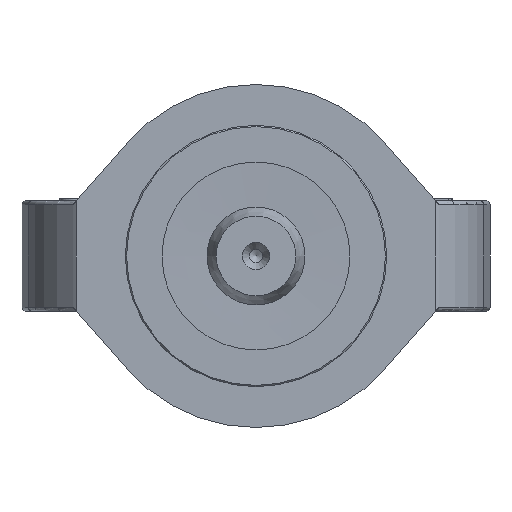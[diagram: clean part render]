
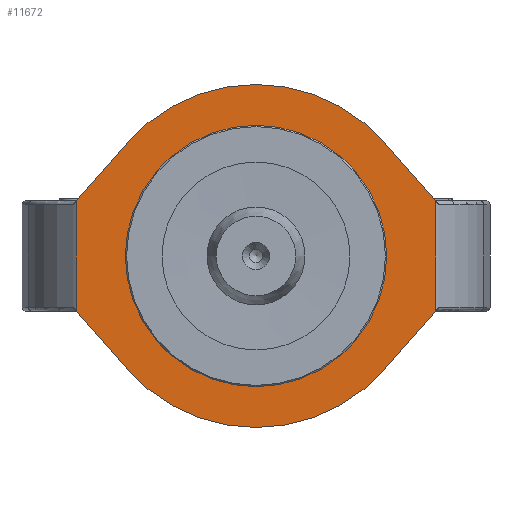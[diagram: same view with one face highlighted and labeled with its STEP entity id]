
A CAD part, front view. The second image highlights one B-rep face of the part: STEP entity #11672.
In plain terms, the highlighted planar face has unit normal (0, -1, 0).
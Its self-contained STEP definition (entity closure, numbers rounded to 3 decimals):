
#323=CIRCLE('',#12295,32.);
#378=CIRCLE('',#12406,42.);
#379=CIRCLE('',#12410,42.);
#576=FACE_BOUND('',#2232,.T.);
#1526=FACE_OUTER_BOUND('',#2231,.T.);
#2231=EDGE_LOOP('',(#9357,#9358,#9359,#9360,#9361,#9362,#9363,#9364));
#2232=EDGE_LOOP('',(#9365));
#3219=LINE('',#18444,#4196);
#3223=LINE('',#18461,#4200);
#3239=LINE('',#18871,#4216);
#3241=LINE('',#18877,#4218);
#3243=LINE('',#18881,#4220);
#3245=LINE('',#18887,#4222);
#4196=VECTOR('',#14039,10.);
#4200=VECTOR('',#14059,10.);
#4216=VECTOR('',#14195,10.);
#4218=VECTOR('',#14203,10.);
#4220=VECTOR('',#14207,10.);
#4222=VECTOR('',#14215,10.);
#5118=VERTEX_POINT('',#18325);
#5146=VERTEX_POINT('',#18436);
#5149=VERTEX_POINT('',#18442);
#5153=VERTEX_POINT('',#18458);
#5154=VERTEX_POINT('',#18460);
#5180=VERTEX_POINT('',#18869);
#5181=VERTEX_POINT('',#18873);
#5182=VERTEX_POINT('',#18879);
#5183=VERTEX_POINT('',#18883);
#6546=EDGE_CURVE('',#5118,#5118,#323,.T.);
#6590=EDGE_CURVE('',#5149,#5146,#3219,.T.);
#6598=EDGE_CURVE('',#5153,#5154,#3223,.T.);
#6658=EDGE_CURVE('',#5153,#5180,#3239,.T.);
#6660=EDGE_CURVE('',#5180,#5181,#378,.T.);
#6661=EDGE_CURVE('',#5181,#5146,#3241,.T.);
#6663=EDGE_CURVE('',#5149,#5182,#3243,.T.);
#6665=EDGE_CURVE('',#5182,#5183,#379,.T.);
#6666=EDGE_CURVE('',#5183,#5154,#3245,.T.);
#9357=ORIENTED_EDGE('',*,*,#6598,.F.);
#9358=ORIENTED_EDGE('',*,*,#6658,.T.);
#9359=ORIENTED_EDGE('',*,*,#6660,.T.);
#9360=ORIENTED_EDGE('',*,*,#6661,.T.);
#9361=ORIENTED_EDGE('',*,*,#6590,.F.);
#9362=ORIENTED_EDGE('',*,*,#6663,.T.);
#9363=ORIENTED_EDGE('',*,*,#6665,.T.);
#9364=ORIENTED_EDGE('',*,*,#6666,.T.);
#9365=ORIENTED_EDGE('',*,*,#6546,.T.);
#11086=PLANE('',#12412);
#11672=ADVANCED_FACE('',(#1526,#576),#11086,.T.);
#12295=AXIS2_PLACEMENT_3D('',#18326,#13938,#13939);
#12406=AXIS2_PLACEMENT_3D('',#18875,#14199,#14200);
#12410=AXIS2_PLACEMENT_3D('',#18885,#14211,#14212);
#12412=AXIS2_PLACEMENT_3D('',#18888,#14216,#14217);
#13938=DIRECTION('center_axis',(0.,1.,0.));
#13939=DIRECTION('ref_axis',(-1.,0.,0.));
#14039=DIRECTION('',(0.,0.,1.));
#14059=DIRECTION('',(0.,0.,-1.));
#14195=DIRECTION('',(-0.659,0.,0.752));
#14199=DIRECTION('center_axis',(0.,-1.,0.));
#14200=DIRECTION('ref_axis',(0.752,0.,0.659));
#14203=DIRECTION('',(-0.659,0.,-0.752));
#14207=DIRECTION('',(0.659,0.,-0.752));
#14211=DIRECTION('center_axis',(0.,-1.,0.));
#14212=DIRECTION('ref_axis',(-0.752,0.,-0.659));
#14215=DIRECTION('',(0.659,0.,0.752));
#14216=DIRECTION('center_axis',(0.,-1.,0.));
#14217=DIRECTION('ref_axis',(1.,0.,0.));
#18325=CARTESIAN_POINT('',(32.,-61.,0.));
#18326=CARTESIAN_POINT('Origin',(0.,-61.,0.));
#18436=CARTESIAN_POINT('',(-44.,-61.,13.5));
#18442=CARTESIAN_POINT('',(-44.,-61.,-13.5));
#18444=CARTESIAN_POINT('',(-44.,-61.,0.));
#18458=CARTESIAN_POINT('',(44.,-61.,13.5));
#18460=CARTESIAN_POINT('',(44.,-61.,-13.5));
#18461=CARTESIAN_POINT('',(44.,-61.,0.));
#18869=CARTESIAN_POINT('',(31.604,-61.,27.663));
#18871=CARTESIAN_POINT('',(44.,-61.,13.5));
#18873=CARTESIAN_POINT('',(-31.604,-61.,27.663));
#18875=CARTESIAN_POINT('Origin',(0.,-61.,0.));
#18877=CARTESIAN_POINT('',(-31.604,-61.,27.663));
#18879=CARTESIAN_POINT('',(-31.604,-61.,-27.663));
#18881=CARTESIAN_POINT('',(-44.,-61.,-13.5));
#18883=CARTESIAN_POINT('',(31.604,-61.,-27.663));
#18885=CARTESIAN_POINT('Origin',(0.,-61.,0.));
#18887=CARTESIAN_POINT('',(31.604,-61.,-27.663));
#18888=CARTESIAN_POINT('Origin',(-44.,-61.,0.));
